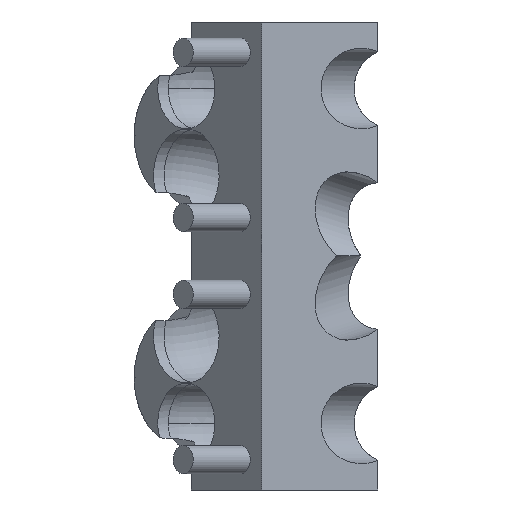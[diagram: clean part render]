
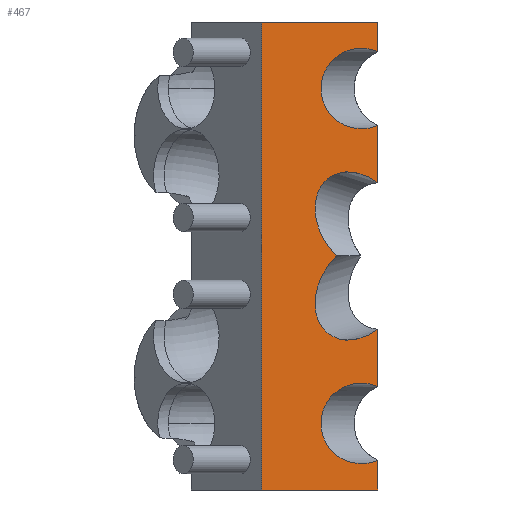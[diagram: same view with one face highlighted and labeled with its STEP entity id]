
A CAD part, front view. The second image highlights one B-rep face of the part: STEP entity #467.
In plain terms, the highlighted planar face has unit normal (0.707, -0.707, 0).
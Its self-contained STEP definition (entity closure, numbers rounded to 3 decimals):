
#467=ADVANCED_FACE('',(#993),#994,.T.);
#993=FACE_OUTER_BOUND('',#1606,.T.);
#994=PLANE('',#1607);
#1606=EDGE_LOOP('',(#2947,#2948,#2949,#2950,#2951,#2952,#2953,#2954,#2955,#2956,#2957,#2958,#2959,#2960,#2961,#2962,#2963));
#1607=AXIS2_PLACEMENT_3D('',#2964,#2965,#2966);
#2947=ORIENTED_EDGE('',*,*,#4004,.T.);
#2948=ORIENTED_EDGE('',*,*,#4058,.T.);
#2949=ORIENTED_EDGE('',*,*,#4006,.T.);
#2950=ORIENTED_EDGE('',*,*,#4339,.T.);
#2951=ORIENTED_EDGE('',*,*,#3941,.T.);
#2952=ORIENTED_EDGE('',*,*,#4340,.T.);
#2953=ORIENTED_EDGE('',*,*,#4278,.T.);
#2954=ORIENTED_EDGE('',*,*,#4062,.T.);
#2955=ORIENTED_EDGE('',*,*,#4341,.T.);
#2956=ORIENTED_EDGE('',*,*,#4232,.T.);
#2957=ORIENTED_EDGE('',*,*,#4342,.T.);
#2958=ORIENTED_EDGE('',*,*,#4234,.T.);
#2959=ORIENTED_EDGE('',*,*,#4343,.T.);
#2960=ORIENTED_EDGE('',*,*,#4023,.T.);
#2961=ORIENTED_EDGE('',*,*,#4344,.F.);
#2962=ORIENTED_EDGE('',*,*,#4336,.T.);
#2963=ORIENTED_EDGE('',*,*,#4345,.T.);
#2964=CARTESIAN_POINT('',(93.071,-66.318,2.));
#2965=DIRECTION('',(0.707,-0.707,0.));
#2966=DIRECTION('',(0.707,0.707,0.));
#3941=EDGE_CURVE('',#4838,#4835,#4839,.T.);
#4004=EDGE_CURVE('',#4940,#4938,#4941,.T.);
#4006=EDGE_CURVE('',#4944,#4942,#4945,.T.);
#4023=EDGE_CURVE('',#4975,#4973,#4976,.T.);
#4058=EDGE_CURVE('',#4938,#4944,#5030,.T.);
#4062=EDGE_CURVE('',#5036,#5034,#5037,.T.);
#4232=EDGE_CURVE('',#5299,#5297,#5300,.T.);
#4234=EDGE_CURVE('',#5303,#5301,#5304,.T.);
#4278=EDGE_CURVE('',#5362,#5036,#5363,.T.);
#4336=EDGE_CURVE('',#5438,#5436,#5439,.T.);
#4339=EDGE_CURVE('',#4942,#4838,#5442,.T.);
#4340=EDGE_CURVE('',#4835,#5362,#5443,.T.);
#4341=EDGE_CURVE('',#5034,#5299,#5444,.T.);
#4342=EDGE_CURVE('',#5297,#5303,#5445,.T.);
#4343=EDGE_CURVE('',#5301,#4975,#5446,.T.);
#4344=EDGE_CURVE('',#5438,#4973,#5447,.T.);
#4345=EDGE_CURVE('',#5436,#4940,#5448,.T.);
#4835=VERTEX_POINT('',#7271);
#4838=VERTEX_POINT('',#7275);
#4839=ELLIPSE('',#7276,16.932,11.5);
#4938=VERTEX_POINT('',#7922);
#4940=VERTEX_POINT('',#7925);
#4941=ELLIPSE('',#7926,14.142,10.0);
#4942=VERTEX_POINT('',#7927);
#4944=VERTEX_POINT('',#7929);
#4945=ELLIPSE('',#7930,14.142,10.0);
#4973=VERTEX_POINT('',#8135);
#4975=VERTEX_POINT('',#8138);
#4976=LINE('',#8139,#8140);
#5030=ELLIPSE('',#8381,14.142,10.0);
#5034=VERTEX_POINT('',#8386);
#5036=VERTEX_POINT('',#8388);
#5037=ELLIPSE('',#8389,16.932,11.5);
#5297=VERTEX_POINT('',#10073);
#5299=VERTEX_POINT('',#10076);
#5300=ELLIPSE('',#10077,14.142,10.0);
#5301=VERTEX_POINT('',#10078);
#5303=VERTEX_POINT('',#10080);
#5304=ELLIPSE('',#10081,14.142,10.0);
#5362=VERTEX_POINT('',#10322);
#5363=ELLIPSE('',#10323,16.932,11.5);
#5436=VERTEX_POINT('',#10842);
#5438=VERTEX_POINT('',#10845);
#5439=LINE('',#10846,#10847);
#5442=LINE('',#10851,#10852);
#5443=ELLIPSE('',#10853,16.932,11.5);
#5444=LINE('',#10854,#10855);
#5445=ELLIPSE('',#10856,14.142,10.0);
#5446=LINE('',#10857,#10858);
#5447=LINE('',#10859,#10860);
#5448=LINE('',#10861,#10862);
#7271=CARTESIAN_POINT('',(100.072,-59.317,39.183));
#7275=CARTESIAN_POINT('',(107.46,-51.928,41.825));
#7276=AXIS2_PLACEMENT_3D('',#11829,#11830,#11831);
#7922=CARTESIAN_POINT('',(103.36,-56.029,8.5));
#7925=CARTESIAN_POINT('',(107.46,-51.928,9.379));
#7926=AXIS2_PLACEMENT_3D('',#11916,#11917,#11918);
#7927=CARTESIAN_POINT('',(107.46,-51.928,27.621));
#7929=CARTESIAN_POINT('',(103.36,-56.029,28.5));
#7930=AXIS2_PLACEMENT_3D('',#11922,#11923,#11924);
#8135=CARTESIAN_POINT('',(78.681,-80.708,118.0));
#8138=CARTESIAN_POINT('',(107.46,-51.928,118.0));
#8139=CARTESIAN_POINT('',(78.681,-80.708,118.0));
#8140=VECTOR('',#11944,1.);
#8381=AXIS2_PLACEMENT_3D('',#11988,#11989,#11990);
#8386=CARTESIAN_POINT('',(107.46,-51.928,78.175));
#8388=CARTESIAN_POINT('',(100.072,-59.317,80.817));
#8389=AXIS2_PLACEMENT_3D('',#11995,#11996,#11997);
#10073=CARTESIAN_POINT('',(103.36,-56.029,91.5));
#10076=CARTESIAN_POINT('',(107.46,-51.928,92.379));
#10077=AXIS2_PLACEMENT_3D('',#12197,#12198,#12199);
#10078=CARTESIAN_POINT('',(107.46,-51.928,110.621));
#10080=CARTESIAN_POINT('',(103.36,-56.029,111.5));
#10081=AXIS2_PLACEMENT_3D('',#12203,#12204,#12205);
#10322=CARTESIAN_POINT('',(97.181,-62.208,60.0));
#10323=AXIS2_PLACEMENT_3D('',#12259,#12260,#12261);
#10842=CARTESIAN_POINT('',(107.46,-51.928,2.));
#10845=CARTESIAN_POINT('',(78.681,-80.708,2.));
#10846=CARTESIAN_POINT('',(78.681,-80.708,2.));
#10847=VECTOR('',#12330,1.);
#10851=CARTESIAN_POINT('',(107.46,-51.928,2.));
#10852=VECTOR('',#12332,1.0);
#10853=AXIS2_PLACEMENT_3D('',#12333,#12334,#12335);
#10854=CARTESIAN_POINT('',(107.46,-51.928,2.));
#10855=VECTOR('',#12336,1.0);
#10856=AXIS2_PLACEMENT_3D('',#12337,#12338,#12339);
#10857=CARTESIAN_POINT('',(107.46,-51.928,2.));
#10858=VECTOR('',#12340,1.0);
#10859=CARTESIAN_POINT('',(78.681,-80.708,2.));
#10860=VECTOR('',#12341,1.0);
#10861=CARTESIAN_POINT('',(107.46,-51.928,2.));
#10862=VECTOR('',#12342,1.0);
#11829=CARTESIAN_POINT('',(103.329,-56.06,51.771));
#11830=DIRECTION('',(-0.707,0.707,0.));
#11831=DIRECTION('',(-0.644,-0.644,-0.412));
#11916=CARTESIAN_POINT('',(103.36,-56.029,18.5));
#11917=DIRECTION('',(-0.707,0.707,0.));
#11918=DIRECTION('',(-0.707,-0.707,0.));
#11922=CARTESIAN_POINT('',(103.36,-56.029,18.5));
#11923=DIRECTION('',(-0.707,0.707,0.));
#11924=DIRECTION('',(-0.707,-0.707,0.));
#11944=DIRECTION('',(-0.707,-0.707,0.));
#11988=CARTESIAN_POINT('',(103.36,-56.029,18.5));
#11989=DIRECTION('',(-0.707,0.707,0.));
#11990=DIRECTION('',(-0.707,-0.707,0.));
#11995=CARTESIAN_POINT('',(103.329,-56.06,68.229));
#11996=DIRECTION('',(-0.707,0.707,0.));
#11997=DIRECTION('',(0.644,0.644,-0.412));
#12197=CARTESIAN_POINT('',(103.36,-56.029,101.5));
#12198=DIRECTION('',(-0.707,0.707,0.));
#12199=DIRECTION('',(-0.707,-0.707,0.));
#12203=CARTESIAN_POINT('',(103.36,-56.029,101.5));
#12204=DIRECTION('',(-0.707,0.707,0.));
#12205=DIRECTION('',(-0.707,-0.707,0.));
#12259=CARTESIAN_POINT('',(103.329,-56.06,68.229));
#12260=DIRECTION('',(-0.707,0.707,0.));
#12261=DIRECTION('',(0.644,0.644,-0.412));
#12330=DIRECTION('',(0.707,0.707,0.));
#12332=DIRECTION('',(0.0,0.,1.0));
#12333=CARTESIAN_POINT('',(103.329,-56.06,51.771));
#12334=DIRECTION('',(-0.707,0.707,0.));
#12335=DIRECTION('',(-0.644,-0.644,-0.412));
#12336=DIRECTION('',(0.0,0.,1.0));
#12337=CARTESIAN_POINT('',(103.36,-56.029,101.5));
#12338=DIRECTION('',(-0.707,0.707,0.));
#12339=DIRECTION('',(-0.707,-0.707,0.));
#12340=DIRECTION('',(0.0,0.,1.0));
#12341=DIRECTION('',(0.0,0.,1.0));
#12342=DIRECTION('',(0.0,0.,1.0));
